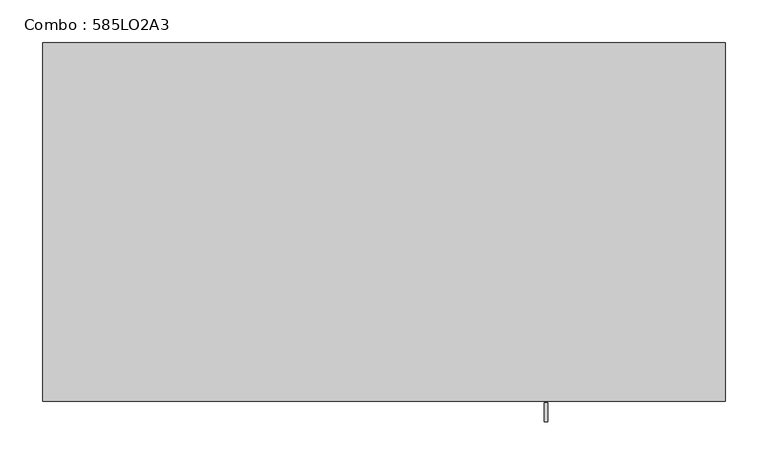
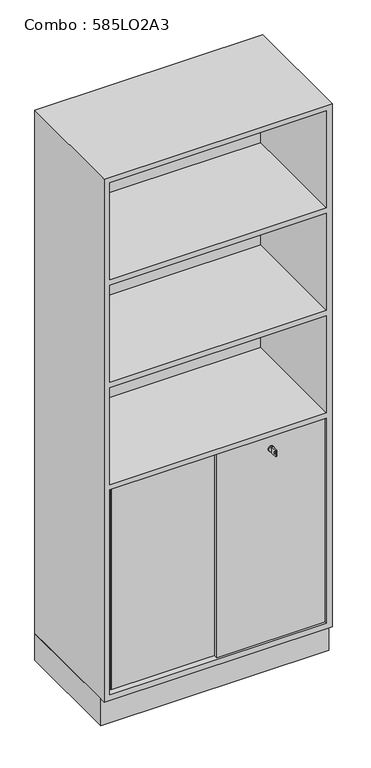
"""IFC4 building model written with IfcOpenShell, lengths in millimetres: furniture geometry, Combo : 585LO2A3."""

from ifc_helpers import new_model, si_unit, point, frame, frame_2d, origin, origin_with_axes, place, context, project, spatial, polyline, circle_curve, trimmed, segment, composite_curve, outline, extrude, faceted_brep, source, transform, mapped, element, save


def combo_585lo2a3_1e52c30f(model_context):
    return source(origin(), model_context, "Body", "SolidModel", [
        extrude(outline(polyline([(-400.0, -400.0), (-400.0, 0.0), (400.0, 0.0), (400.0, -400.0), (-400.0, -400.0)])), origin_with_axes(), (0.0, 0.0, 1.0), 100.0),
        extrude(outline(composite_curve([segment(trimmed(circle_curve(frame_2d((830.0, 190.0)), 10.0), [point((830.0, 180.0))], [point((830.0, 200.0))], False, "CARTESIAN"), True, "CONTINUOUS"), segment(trimmed(circle_curve(frame_2d((830.0, 190.0)), 10.0), [point((830.0, 200.0))], [point((830.0, 180.0))], False, "CARTESIAN"), True, "CONTINUOUS")], self_intersect=False)), frame((0.0, -416.0, 0.0), z_axis=(0.0, 1.0, 0.0), x_axis=(0.0, 0.0, 1.0)), (0.0, 0.0, 1.0), 4.0),
        extrude(outline(polyline([(-444.0, 819.014113), (-444.0, 841.0), (-422.0, 841.0), (-422.0, 819.014113), (-444.0, 819.014113)]), holes=[composite_curve([segment(trimmed(circle_curve(frame_2d((-437.75, 830.0070565)), 3.2230706), [point((-437.75, 833.2301271))], [point((-437.75, 826.7839859))], True, "CARTESIAN"), True, "CONTINUOUS"), segment(trimmed(circle_curve(frame_2d((-437.75, 830.0070565)), 3.2230706), [point((-437.75, 826.7839859))], [point((-437.75, 833.2301271))], True, "CARTESIAN"), True, "CONTINUOUS")], self_intersect=False)]), frame((188.0, 0.0, 0.0), z_axis=(1.0, 0.0, 0.0), x_axis=(0.0, 1.0, 0.0)), (0.0, 0.0, 1.0), 4.0416064),
        extrude(outline(polyline([(191.0416064, -422.0), (189.0, -422.0), (189.0, -416.0), (191.0416064, -416.0), (191.0416064, -422.0)])), frame((0.0, 0.0, 826.014113), z_axis=(0.0, 0.0, 1.0), x_axis=(1.0, 0.0, 0.0)), (0.0, 0.0, 1.0), 7.985887),
        extrude(outline(polyline([(-378.0478528, -398.0), (-380.0, -398.0), (-380.0, -386.0), (380.0, -386.0), (380.0, -412.0), (0.0, -412.0), (0.0, -400.0), (8.9521472, -400.0), (8.9521472, -398.0), (-361.0478528, -398.0), (-363.0478528, -398.0), (-363.0478528, -388.0), (-378.0478528, -388.0), (-378.0478528, -398.0)])), frame((0.0, 0.0, 120.0), z_axis=(0.0, 0.0, 1.0), x_axis=(1.0, 0.0, 0.0)), (0.0, 0.0, 1.0), 760.0),
        faceted_brep([(400.0, 0.0, 2040.0), (-400.0, 0.0, 2040.0), (-400.0, -420.0, 2040.0), (400.0, -420.0, 2040.0), (-400.0, 0.0, 100.0), (400.0, 0.0, 100.0), (400.0, -420.0, 100.0), (-400.0, -420.0, 100.0), (-380.0, -420.0, 880.0), (380.0, -420.0, 880.0), (380.0, -420.0, 120.0), (-380.0, -420.0, 120.0), (380.0, -420.0, 1260.0), (380.0, -420.0, 900.0), (-380.0, -420.0, 900.0), (-380.0, -420.0, 1260.0), (380.0, -420.0, 1640.0), (380.0, -420.0, 1280.0), (-380.0, -420.0, 1280.0), (-380.0, -420.0, 1640.0), (380.0, -420.0, 2020.0), (380.0, -420.0, 1660.0), (-380.0, -420.0, 1660.0), (-380.0, -420.0, 2020.0), (380.0, -20.0, 2020.0), (380.0, -20.0, 1660.0), (-380.0, -20.0, 1660.0), (-380.0, -20.0, 2020.0), (-380.0, -386.0, 880.0), (380.0, -386.0, 880.0), (-380.0, -386.0, 120.0), (380.0, -386.0, 120.0), (380.0, -20.0, 900.0), (380.0, -20.0, 1260.0), (-380.0, -20.0, 1260.0), (-380.0, -20.0, 900.0), (380.0, -20.0, 1280.0), (380.0, -20.0, 1640.0), (-380.0, -20.0, 1640.0), (-380.0, -20.0, 1280.0)], [[[0, 1, 2, 3]], [[4, 5, 6, 7]], [[1, 0, 5, 4]], [[2, 1, 4, 7]], [[3, 2, 7, 6], [8, 9, 10, 11], [12, 13, 14, 15], [16, 17, 18, 19], [20, 21, 22, 23]], [[0, 3, 6, 5]], [[24, 25, 21, 20]], [[26, 27, 23, 22]], [[28, 29, 9, 8]], [[30, 11, 10, 31]], [[9, 29, 31, 10]], [[28, 8, 11, 30]], [[29, 28, 30, 31]], [[32, 33, 34, 35]], [[33, 32, 13, 12]], [[34, 33, 12, 15]], [[35, 34, 15, 14]], [[32, 35, 14, 13]], [[36, 37, 38, 39]], [[37, 36, 17, 16]], [[38, 37, 16, 19]], [[39, 38, 19, 18]], [[36, 39, 18, 17]], [[25, 26, 22, 21]], [[25, 24, 27, 26]], [[27, 24, 20, 23]]]),
    ])


if __name__ == "__main__":
    model = new_model("IFC4")
    model_context = context("Model", 3, world=origin())
    ifc_project = project(units=[si_unit("LENGTHUNIT", "METRE", prefix="MILLI")], contexts=[model_context])
    site = spatial("IfcSite", under=ifc_project)
    building = spatial("IfcBuilding", under=site)
    placement = place(None, origin())
    combo_585lo2a3_shape = combo_585lo2a3_1e52c30f(model_context)
    element("IfcFurniture", 1, ObjectType="Combo : 585LO2A3", at=placement, inside=building, context=model_context, shape_type="MappedRepresentation", body=[
        mapped(combo_585lo2a3_shape, transform((0.0, 0.0, 0.0), x_axis=(1.0, 0.0, 0.0), y_axis=(0.0, 1.0, 0.0), z_axis=(0.0, 0.0, 1.0))),
    ])
    save(model, "model.ifc")
